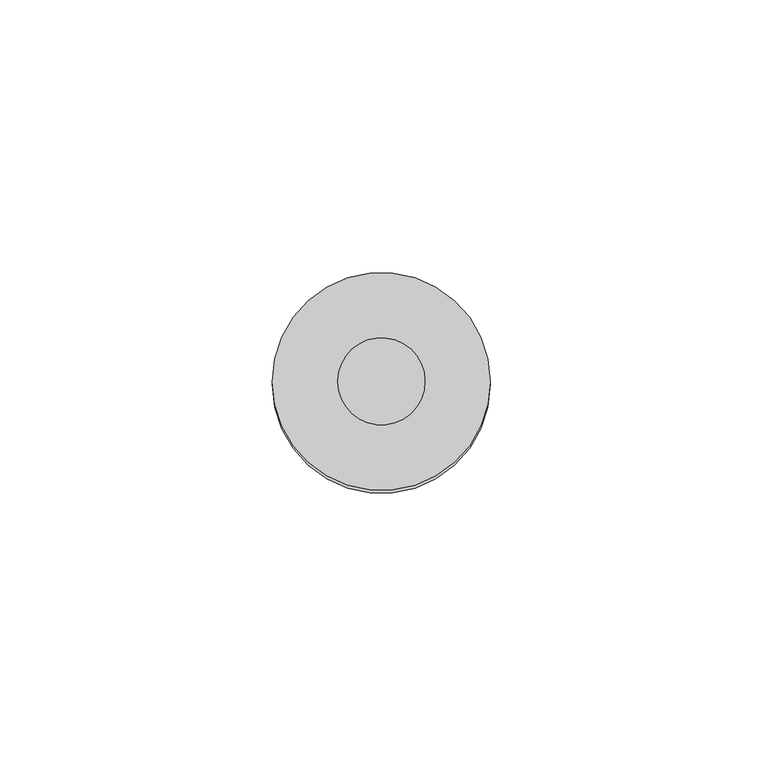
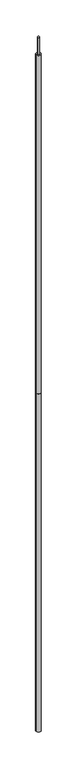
"""IFC4 building model written with IfcOpenShell, lengths in millimetres: proxy geometry, КНС_МачтаМолниеприемная_DKC : NL6000CU_Медь_6м."""

from ifc_helpers import new_model, si_unit, point, frame, origin, origin_with_axes, origin_2d, place, context, project, spatial, circle_curve, trimmed, segment, composite_curve, outline, extrude, source, transform, mapped, element, save


def security_devices_bb59ca7d(model_context):
    return source(origin(), model_context, "Body", "SweptSolid", [
        extrude(outline(composite_curve([segment(trimmed(circle_curve(origin_2d(), 8.0), [point((-8.0, 0.0))], [point((8.0, 0.0))], False, "CARTESIAN"), True, "CONTINUOUS"), segment(trimmed(circle_curve(origin_2d(), 8.0), [point((8.0, 0.0))], [point((-8.0, 0.0))], False, "CARTESIAN"), True, "CONTINUOUS")], self_intersect=False)), frame((0.0, 0.0, 6000.0), z_axis=(0.0, 0.0, 1.0), x_axis=(1.0, 0.0, 0.0)), (0.0, 0.0, 1.0), 150.0),
        extrude(outline(composite_curve([segment(trimmed(circle_curve(origin_2d(), 20.0), [point((-20.0, 0.0))], [point((20.0, 0.0))], False, "CARTESIAN"), True, "CONTINUOUS"), segment(trimmed(circle_curve(origin_2d(), 20.0), [point((20.0, 0.0))], [point((-20.0, 0.0))], False, "CARTESIAN"), True, "CONTINUOUS")], self_intersect=False)), frame((0.0, 0.0, 3000.0), z_axis=(0.0, 0.0, 1.0), x_axis=(1.0, 0.0, 0.0)), (0.0, 0.0, 1.0), 3000.0),
        extrude(outline(composite_curve([segment(trimmed(circle_curve(origin_2d(), 20.0), [point((-20.0, 0.0))], [point((20.0, 0.0))], False, "CARTESIAN"), True, "CONTINUOUS"), segment(trimmed(circle_curve(origin_2d(), 20.0), [point((20.0, 0.0))], [point((-20.0, 0.0))], False, "CARTESIAN"), True, "CONTINUOUS")], self_intersect=False)), origin_with_axes(), (0.0, 0.0, 1.0), 3000.0),
    ])


if __name__ == "__main__":
    model = new_model("IFC4")
    model_context = context("Model", 3, world=origin())
    ifc_project = project(units=[si_unit("LENGTHUNIT", "METRE", prefix="MILLI")], contexts=[model_context])
    site = spatial("IfcSite", under=ifc_project)
    building = spatial("IfcBuilding", under=site)
    placement = place(None, origin())
    security_devices_shape = security_devices_bb59ca7d(model_context)
    element("IfcBuildingElementProxy", 1, Name="КНС_МачтаМолниеприемная_DKC : NL6000CU_Медь_6м", ObjectType="КНС_МачтаМолниеприемная_DKC : NL6000CU_Медь_6м", at=placement, inside=building, context=model_context, shape_type="MappedRepresentation", body=[
        mapped(security_devices_shape, transform((0.0, 0.0, 0.0), x_axis=(1.0, 0.0, 0.0), y_axis=(0.0, 1.0, 0.0), z_axis=(0.0, 0.0, 1.0))),
    ])
    save(model, "model.ifc")
